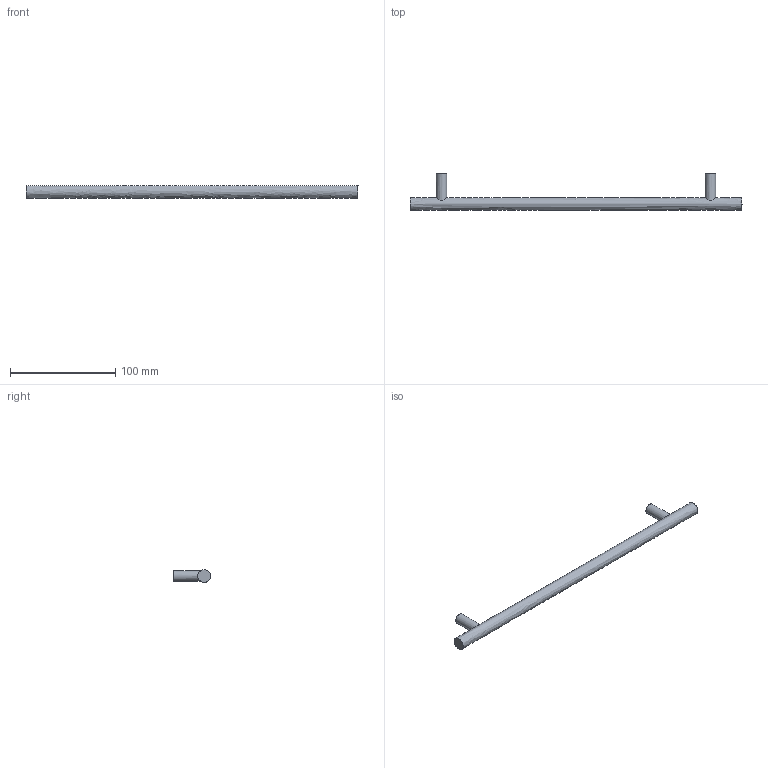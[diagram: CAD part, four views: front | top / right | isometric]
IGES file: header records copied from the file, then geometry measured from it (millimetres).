
Start section: Data from Parasolid IGES Translator 15.0.47, Copyright(c) 2006 Siemens P LM Software. All Rights Reserved.
Global section: file name: 9071017.igs; native system:  By UGS Corp.; preprocessor: XPlus GENERIC/IGES 3.0; author: Noname; organization: Noname; date: 20140122.181312; units: millimetre
Bounding box: 316 x 35 x 12 mm (x, y, z)
Surface area: 13944.4 mm2 (no closed solid volume)
Topology: 0 solids, 0 shells, 11 faces, 30 edges, 22 vertices
Faces by surface type: extrusion 6, revolution 5
